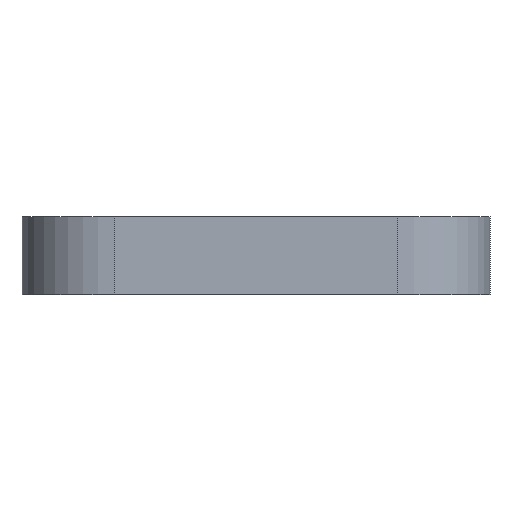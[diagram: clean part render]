
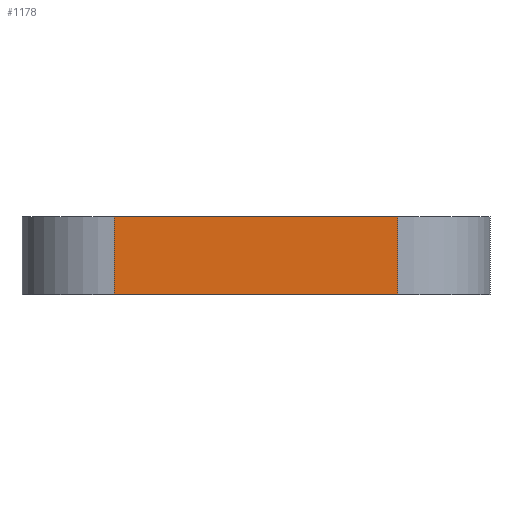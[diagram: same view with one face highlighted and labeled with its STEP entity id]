
A CAD part, left-side view. The second image highlights one B-rep face of the part: STEP entity #1178.
In plain terms, the highlighted planar face has unit normal (-1, 0, 0).
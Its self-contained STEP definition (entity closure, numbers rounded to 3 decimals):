
#32 = PLANE('',#33);
#33 = AXIS2_PLACEMENT_3D('',#34,#35,#36);
#34 = CARTESIAN_POINT('',(30.,-20.,13.));
#35 = DIRECTION('',(-0.,-0.,-1.));
#36 = DIRECTION('',(-1.,0.,0.));
#57 = VERTEX_POINT('',#58);
#58 = CARTESIAN_POINT('',(-13.,-40.,13.));
#73 = CYLINDRICAL_SURFACE('',#74,13.);
#74 = AXIS2_PLACEMENT_3D('',#75,#76,#77);
#75 = CARTESIAN_POINT('',(0.,-40.,13.));
#76 = DIRECTION('',(0.,0.,-1.));
#77 = DIRECTION('',(0.,-1.,0.));
#85 = EDGE_CURVE('',#57,#86,#88,.T.);
#86 = VERTEX_POINT('',#87);
#87 = CARTESIAN_POINT('',(-13.,0.,13.));
#88 = SURFACE_CURVE('',#89,(#93,#100),.PCURVE_S1.);
#89 = LINE('',#90,#91);
#90 = CARTESIAN_POINT('',(-13.,-40.,13.));
#91 = VECTOR('',#92,1.);
#92 = DIRECTION('',(0.,1.,0.));
#93 = PCURVE('',#32,#94);
#94 = DEFINITIONAL_REPRESENTATION('',(#95),#99);
#95 = LINE('',#96,#97);
#96 = CARTESIAN_POINT('',(43.,-20.));
#97 = VECTOR('',#98,1.);
#98 = DIRECTION('',(0.,1.));
#99 = ( GEOMETRIC_REPRESENTATION_CONTEXT(2) 
PARAMETRIC_REPRESENTATION_CONTEXT() REPRESENTATION_CONTEXT('2D SPACE',''
  ) );
#100 = PCURVE('',#101,#106);
#101 = PLANE('',#102);
#102 = AXIS2_PLACEMENT_3D('',#103,#104,#105);
#103 = CARTESIAN_POINT('',(-13.,-40.,13.));
#104 = DIRECTION('',(-1.,0.,0.));
#105 = DIRECTION('',(0.,1.,0.));
#106 = DEFINITIONAL_REPRESENTATION('',(#107),#111);
#107 = LINE('',#108,#109);
#108 = CARTESIAN_POINT('',(0.,0.));
#109 = VECTOR('',#110,1.);
#110 = DIRECTION('',(1.,0.));
#111 = ( GEOMETRIC_REPRESENTATION_CONTEXT(2) 
PARAMETRIC_REPRESENTATION_CONTEXT() REPRESENTATION_CONTEXT('2D SPACE',''
  ) );
#130 = CYLINDRICAL_SURFACE('',#131,13.);
#131 = AXIS2_PLACEMENT_3D('',#132,#133,#134);
#132 = CARTESIAN_POINT('',(0.,0.,13.));
#133 = DIRECTION('',(0.,0.,-1.));
#134 = DIRECTION('',(-1.,0.,-0.));
#997 = PLANE('',#998);
#998 = AXIS2_PLACEMENT_3D('',#999,#1000,#1001);
#999 = CARTESIAN_POINT('',(30.,-20.,24.));
#1000 = DIRECTION('',(-0.,-0.,-1.));
#1001 = DIRECTION('',(-1.,0.,0.));
#1086 = VERTEX_POINT('',#1087);
#1087 = CARTESIAN_POINT('',(-13.,-40.,24.));
#1109 = EDGE_CURVE('',#57,#1086,#1110,.T.);
#1110 = SURFACE_CURVE('',#1111,(#1115,#1122),.PCURVE_S1.);
#1111 = LINE('',#1112,#1113);
#1112 = CARTESIAN_POINT('',(-13.,-40.,13.));
#1113 = VECTOR('',#1114,1.);
#1114 = DIRECTION('',(0.,0.,1.));
#1115 = PCURVE('',#73,#1116);
#1116 = DEFINITIONAL_REPRESENTATION('',(#1117),#1121);
#1117 = LINE('',#1118,#1119);
#1118 = CARTESIAN_POINT('',(1.571,0.));
#1119 = VECTOR('',#1120,1.);
#1120 = DIRECTION('',(0.,-1.));
#1121 = ( GEOMETRIC_REPRESENTATION_CONTEXT(2) 
PARAMETRIC_REPRESENTATION_CONTEXT() REPRESENTATION_CONTEXT('2D SPACE',''
  ) );
#1122 = PCURVE('',#101,#1123);
#1123 = DEFINITIONAL_REPRESENTATION('',(#1124),#1128);
#1124 = LINE('',#1125,#1126);
#1125 = CARTESIAN_POINT('',(0.,0.));
#1126 = VECTOR('',#1127,1.);
#1127 = DIRECTION('',(0.,-1.));
#1128 = ( GEOMETRIC_REPRESENTATION_CONTEXT(2) 
PARAMETRIC_REPRESENTATION_CONTEXT() REPRESENTATION_CONTEXT('2D SPACE',''
  ) );
#1178 = ADVANCED_FACE('',(#1179),#101,.T.);
#1179 = FACE_BOUND('',#1180,.T.);
#1180 = EDGE_LOOP('',(#1181,#1182,#1183,#1206));
#1181 = ORIENTED_EDGE('',*,*,#85,.F.);
#1182 = ORIENTED_EDGE('',*,*,#1109,.T.);
#1183 = ORIENTED_EDGE('',*,*,#1184,.T.);
#1184 = EDGE_CURVE('',#1086,#1185,#1187,.T.);
#1185 = VERTEX_POINT('',#1186);
#1186 = CARTESIAN_POINT('',(-13.,0.,24.));
#1187 = SURFACE_CURVE('',#1188,(#1192,#1199),.PCURVE_S1.);
#1188 = LINE('',#1189,#1190);
#1189 = CARTESIAN_POINT('',(-13.,-40.,24.));
#1190 = VECTOR('',#1191,1.);
#1191 = DIRECTION('',(0.,1.,0.));
#1192 = PCURVE('',#101,#1193);
#1193 = DEFINITIONAL_REPRESENTATION('',(#1194),#1198);
#1194 = LINE('',#1195,#1196);
#1195 = CARTESIAN_POINT('',(0.,-11.));
#1196 = VECTOR('',#1197,1.);
#1197 = DIRECTION('',(1.,0.));
#1198 = ( GEOMETRIC_REPRESENTATION_CONTEXT(2) 
PARAMETRIC_REPRESENTATION_CONTEXT() REPRESENTATION_CONTEXT('2D SPACE',''
  ) );
#1199 = PCURVE('',#997,#1200);
#1200 = DEFINITIONAL_REPRESENTATION('',(#1201),#1205);
#1201 = LINE('',#1202,#1203);
#1202 = CARTESIAN_POINT('',(43.,-20.));
#1203 = VECTOR('',#1204,1.);
#1204 = DIRECTION('',(0.,1.));
#1205 = ( GEOMETRIC_REPRESENTATION_CONTEXT(2) 
PARAMETRIC_REPRESENTATION_CONTEXT() REPRESENTATION_CONTEXT('2D SPACE',''
  ) );
#1206 = ORIENTED_EDGE('',*,*,#1207,.F.);
#1207 = EDGE_CURVE('',#86,#1185,#1208,.T.);
#1208 = SURFACE_CURVE('',#1209,(#1213,#1220),.PCURVE_S1.);
#1209 = LINE('',#1210,#1211);
#1210 = CARTESIAN_POINT('',(-13.,0.,13.));
#1211 = VECTOR('',#1212,1.);
#1212 = DIRECTION('',(0.,0.,1.));
#1213 = PCURVE('',#101,#1214);
#1214 = DEFINITIONAL_REPRESENTATION('',(#1215),#1219);
#1215 = LINE('',#1216,#1217);
#1216 = CARTESIAN_POINT('',(40.,0.));
#1217 = VECTOR('',#1218,1.);
#1218 = DIRECTION('',(0.,-1.));
#1219 = ( GEOMETRIC_REPRESENTATION_CONTEXT(2) 
PARAMETRIC_REPRESENTATION_CONTEXT() REPRESENTATION_CONTEXT('2D SPACE',''
  ) );
#1220 = PCURVE('',#130,#1221);
#1221 = DEFINITIONAL_REPRESENTATION('',(#1222),#1226);
#1222 = LINE('',#1223,#1224);
#1223 = CARTESIAN_POINT('',(0.,0.));
#1224 = VECTOR('',#1225,1.);
#1225 = DIRECTION('',(0.,-1.));
#1226 = ( GEOMETRIC_REPRESENTATION_CONTEXT(2) 
PARAMETRIC_REPRESENTATION_CONTEXT() REPRESENTATION_CONTEXT('2D SPACE',''
  ) );
